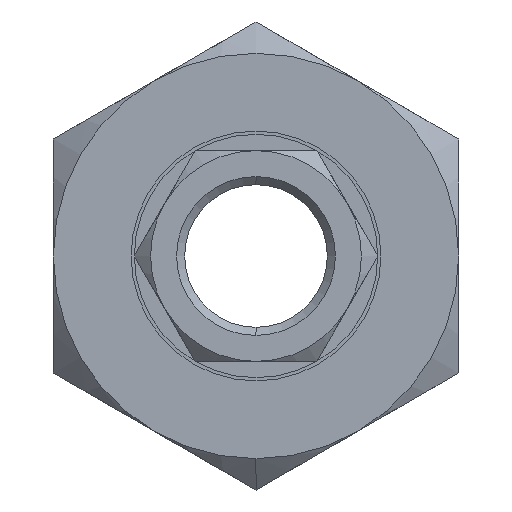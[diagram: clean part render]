
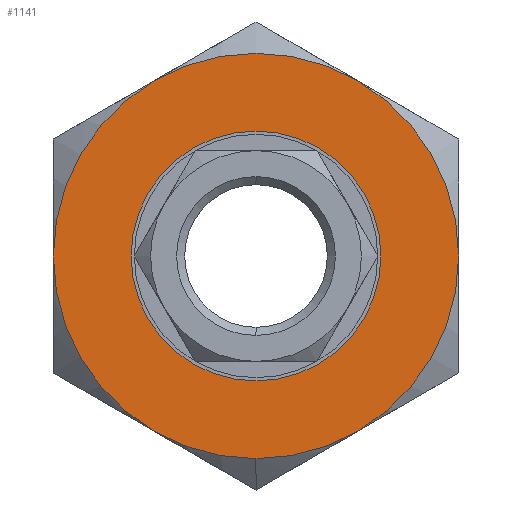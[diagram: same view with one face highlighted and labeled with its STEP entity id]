
A CAD part, front view. The second image highlights one B-rep face of the part: STEP entity #1141.
In plain terms, the highlighted planar face has unit normal (0, -1, 0).
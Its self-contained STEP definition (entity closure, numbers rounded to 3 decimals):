
#2 = FACE_OUTER_BOUND ( 'NONE', #2312, .T. ) ;
#4 = CARTESIAN_POINT ( 'NONE',  ( -6.25, -6.5, -10.825 ) ) ;
#39 = CARTESIAN_POINT ( 'NONE',  ( 12.5, -6.5, 0. ) ) ;
#122 = CARTESIAN_POINT ( 'NONE',  ( 0., -6.5, 0. ) ) ;
#126 = VERTEX_POINT ( 'NONE', #1430 ) ;
#140 = AXIS2_PLACEMENT_3D ( 'NONE', #1852, #787, #517 ) ;
#175 = CARTESIAN_POINT ( 'NONE',  ( 0., -6.5, 0. ) ) ;
#179 = CARTESIAN_POINT ( 'NONE',  ( 0., -6.5, 0. ) ) ;
#261 = PLANE ( 'NONE',  #2497 ) ;
#312 = ORIENTED_EDGE ( 'NONE', *, *, #991, .F. ) ;
#347 = AXIS2_PLACEMENT_3D ( 'NONE', #122, #2454, #2167 ) ;
#372 = CARTESIAN_POINT ( 'NONE',  ( -12.5, -6.5, 0. ) ) ;
#410 = CIRCLE ( 'NONE', #649, 12.5 ) ;
#432 = CIRCLE ( 'NONE', #1631, 7.706 ) ;
#459 = AXIS2_PLACEMENT_3D ( 'NONE', #179, #2502, #2236 ) ;
#464 = VERTEX_POINT ( 'NONE', #1684 ) ;
#476 = CARTESIAN_POINT ( 'NONE',  ( 0., -6.5, -12.5 ) ) ;
#517 = DIRECTION ( 'NONE',  ( 0., 0., 1. ) ) ;
#582 = VERTEX_POINT ( 'NONE', #39 ) ;
#608 = CIRCLE ( 'NONE', #347, 7.706 ) ;
#617 = DIRECTION ( 'NONE',  ( 0., 0., 1. ) ) ;
#639 = CIRCLE ( 'NONE', #1057, 12.5 ) ;
#649 = AXIS2_PLACEMENT_3D ( 'NONE', #1165, #891, #617 ) ;
#668 = VERTEX_POINT ( 'NONE', #1655 ) ;
#669 = CARTESIAN_POINT ( 'NONE',  ( 6.25, -6.5, -10.825 ) ) ;
#676 = FACE_BOUND ( 'NONE', #1199, .T. ) ;
#689 = DIRECTION ( 'NONE',  ( 0., 0., 1. ) ) ;
#707 = ORIENTED_EDGE ( 'NONE', *, *, #2081, .T. ) ;
#787 = DIRECTION ( 'NONE',  ( 0., 1., 0. ) ) ;
#891 = DIRECTION ( 'NONE',  ( 0., 1., 0. ) ) ;
#900 = DIRECTION ( 'NONE',  ( 0., 0., -1. ) ) ;
#914 = AXIS2_PLACEMENT_3D ( 'NONE', #1446, #1177, #900 ) ;
#937 = ORIENTED_EDGE ( 'NONE', *, *, #1246, .F. ) ;
#959 = DIRECTION ( 'NONE',  ( 0., 1., 0. ) ) ;
#991 = EDGE_CURVE ( 'NONE', #1171, #1692, #1991, .T. ) ;
#1025 = CIRCLE ( 'NONE', #459, 12.5 ) ;
#1041 = CIRCLE ( 'NONE', #1045, 12.5 ) ;
#1045 = AXIS2_PLACEMENT_3D ( 'NONE', #1500, #959, #689 ) ;
#1046 = EDGE_CURVE ( 'NONE', #2207, #126, #608, .T. ) ;
#1047 = CIRCLE ( 'NONE', #914, 12.5 ) ;
#1057 = AXIS2_PLACEMENT_3D ( 'NONE', #2214, #1945, #1696 ) ;
#1083 = AXIS2_PLACEMENT_3D ( 'NONE', #2357, #2090, #1836 ) ;
#1128 = EDGE_CURVE ( 'NONE', #2102, #668, #1802, .T. ) ;
#1141 = ADVANCED_FACE ( 'NONE', ( #2, #676 ), #261, .F. ) ;
#1165 = CARTESIAN_POINT ( 'NONE',  ( 0., -6.5, 0. ) ) ;
#1171 = VERTEX_POINT ( 'NONE', #669 ) ;
#1177 = DIRECTION ( 'NONE',  ( 0., -1., 0. ) ) ;
#1199 = EDGE_LOOP ( 'NONE', ( #707, #1522 ) ) ;
#1246 = EDGE_CURVE ( 'NONE', #464, #582, #410, .T. ) ;
#1282 = ORIENTED_EDGE ( 'NONE', *, *, #1128, .F. ) ;
#1343 = CARTESIAN_POINT ( 'NONE',  ( 0., -6.5, 7.706 ) ) ;
#1417 = EDGE_CURVE ( 'NONE', #1692, #2250, #1025, .T. ) ;
#1430 = CARTESIAN_POINT ( 'NONE',  ( 0., -6.5, -7.706 ) ) ;
#1446 = CARTESIAN_POINT ( 'NONE',  ( 0., -6.5, 0. ) ) ;
#1500 = CARTESIAN_POINT ( 'NONE',  ( 0., -6.5, 0. ) ) ;
#1522 = ORIENTED_EDGE ( 'NONE', *, *, #1046, .T. ) ;
#1621 = ORIENTED_EDGE ( 'NONE', *, *, #2360, .F. ) ;
#1631 = AXIS2_PLACEMENT_3D ( 'NONE', #175, #2500, #2234 ) ;
#1655 = CARTESIAN_POINT ( 'NONE',  ( -6.25, -6.5, 10.825 ) ) ;
#1684 = CARTESIAN_POINT ( 'NONE',  ( 6.25, -6.5, 10.825 ) ) ;
#1692 = VERTEX_POINT ( 'NONE', #476 ) ;
#1696 = DIRECTION ( 'NONE',  ( 0., 0., 1. ) ) ;
#1802 = CIRCLE ( 'NONE', #140, 12.5 ) ;
#1836 = DIRECTION ( 'NONE',  ( 0., 0., 1. ) ) ;
#1852 = CARTESIAN_POINT ( 'NONE',  ( 0., -6.5, 0. ) ) ;
#1863 = ORIENTED_EDGE ( 'NONE', *, *, #2367, .T. ) ;
#1945 = DIRECTION ( 'NONE',  ( 0., 1., 0. ) ) ;
#1991 = CIRCLE ( 'NONE', #1083, 12.5 ) ;
#2048 = DIRECTION ( 'NONE',  ( 0., 0., 1. ) ) ;
#2077 = ORIENTED_EDGE ( 'NONE', *, *, #1417, .F. ) ;
#2081 = EDGE_CURVE ( 'NONE', #126, #2207, #432, .T. ) ;
#2090 = DIRECTION ( 'NONE',  ( 0., 1., 0. ) ) ;
#2102 = VERTEX_POINT ( 'NONE', #372 ) ;
#2140 = ORIENTED_EDGE ( 'NONE', *, *, #2365, .F. ) ;
#2167 = DIRECTION ( 'NONE',  ( 0., 0., 1. ) ) ;
#2207 = VERTEX_POINT ( 'NONE', #1343 ) ;
#2214 = CARTESIAN_POINT ( 'NONE',  ( 0., -6.5, 0. ) ) ;
#2234 = DIRECTION ( 'NONE',  ( 0., 0., 1. ) ) ;
#2236 = DIRECTION ( 'NONE',  ( 0., 0., 1. ) ) ;
#2250 = VERTEX_POINT ( 'NONE', #4 ) ;
#2310 = DIRECTION ( 'NONE',  ( 0., 1., 0. ) ) ;
#2312 = EDGE_LOOP ( 'NONE', ( #937, #2140, #1282, #1621, #2077, #312, #1863 ) ) ;
#2357 = CARTESIAN_POINT ( 'NONE',  ( 0., -6.5, 0. ) ) ;
#2360 = EDGE_CURVE ( 'NONE', #2250, #2102, #1041, .T. ) ;
#2365 = EDGE_CURVE ( 'NONE', #668, #464, #639, .T. ) ;
#2367 = EDGE_CURVE ( 'NONE', #1171, #582, #1047, .T. ) ;
#2454 = DIRECTION ( 'NONE',  ( 0., 1., 0. ) ) ;
#2497 = AXIS2_PLACEMENT_3D ( 'NONE', #2580, #2310, #2048 ) ;
#2500 = DIRECTION ( 'NONE',  ( 0., 1., 0. ) ) ;
#2502 = DIRECTION ( 'NONE',  ( 0., 1., 0. ) ) ;
#2580 = CARTESIAN_POINT ( 'NONE',  ( 0., -6.5, 0. ) ) ;
